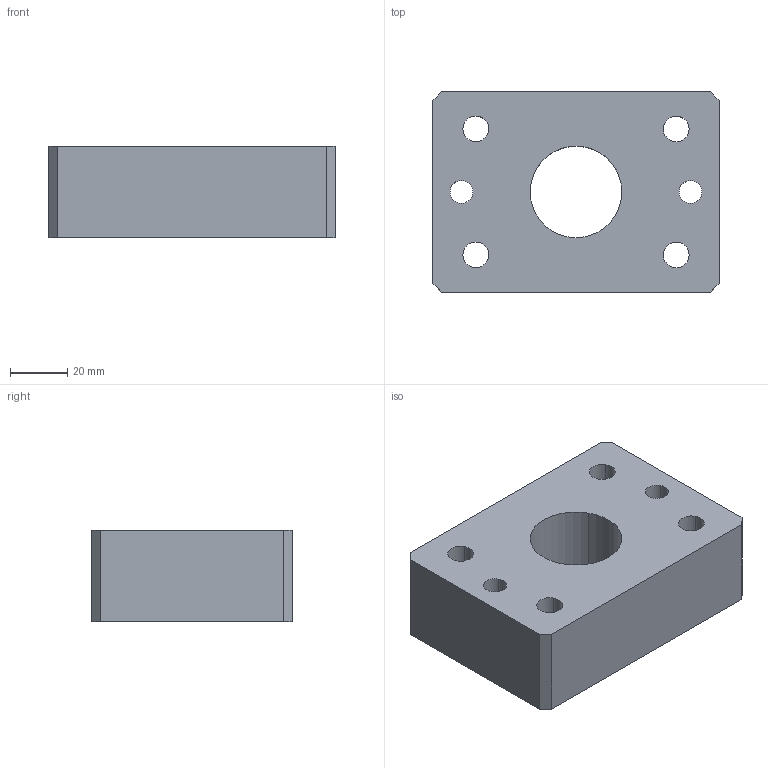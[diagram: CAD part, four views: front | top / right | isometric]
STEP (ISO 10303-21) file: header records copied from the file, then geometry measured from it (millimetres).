
FILE_DESCRIPTION(('CATIA V5 STEP Exchange','CAx-IF Rec.Pracs.--- Model Styling and Organization---1.5--- 2016-08-15','CAx-IF Rec.Pracs.---Supplemental Geometry---1.0---2011-11-01','CAx-IF Rec.Pracs.--- Composite Materials ---1.1---2010-07-15','CAx-IF Rec.Pracs.---External References---2.1---2005-01-19'),'2;1');
FILE_NAME('E:\WAT\Sprezarka\121_00_00_Tlocznik1\Tlocznik1_KPL\Tlocznik1_stp\121_01_08_Oprawa_tulei.stp','2023-08-01T08:49:43+00:00',('none'),('none'),'CATIA Version 5-6 Release 2022 SP3','CATIA V5 STEP AP214 v2','none');
FILE_SCHEMA(('AUTOMOTIVE_DESIGN { 1 0 10303 214 1 1 1 1 }'));
Length unit declared in the file: millimetre
Products named in the file (1): 121_01_08_Oprawa_tulei
Bounding box: 100 x 70 x 32 mm (x, y, z)
Volume: 178764.7 mm3; surface area: 32499.9 mm2
Topology: 1 solids, 1 shells, 44 faces, 110 edges, 70 vertices
Faces by surface type: cylinder 26, plane 14, cone 4
Entity records: 1278 total; most frequent: ORIENTED_EDGE 212, CARTESIAN_POINT 203, DIRECTION 158, EDGE_CURVE 106, AXIS2_PLACEMENT_3D 79, VERTEX_POINT 70, EDGE_LOOP 64, VECTOR 54
